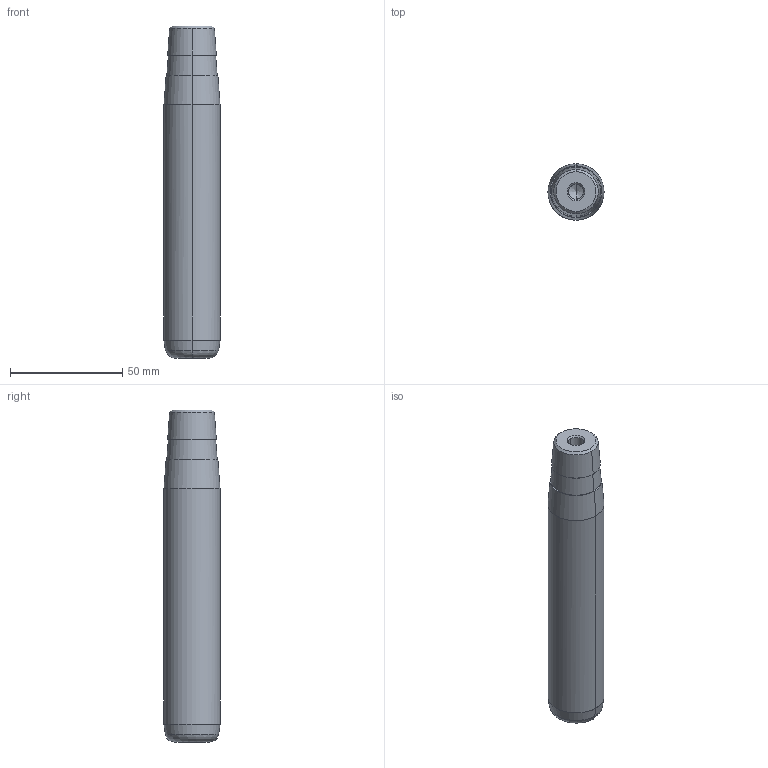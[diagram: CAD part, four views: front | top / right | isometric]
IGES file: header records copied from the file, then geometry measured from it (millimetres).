
Start section: START RECORD GO HERE.
Global section: file name: 722-25x125x148.igs; native system: DASSAULT SYSTEMES CATIA V5 R20 - www.3ds.com; preprocessor: CATIA Version 5 Release 20 ; author: Utente; organization: NB04-ASUS; date: 20210109.090712; units: millimetre
Bounding box: 25 x 25 x 148 mm (x, y, z)
Surface area: 13010.4 mm2 (no closed solid volume)
Topology: 0 solids, 0 shells, 32 faces, 192 edges, 188 vertices
Faces by surface type: revolution 30, plane 2
